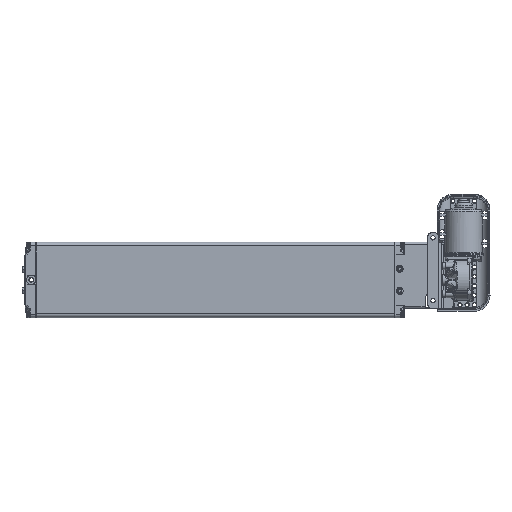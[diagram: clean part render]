
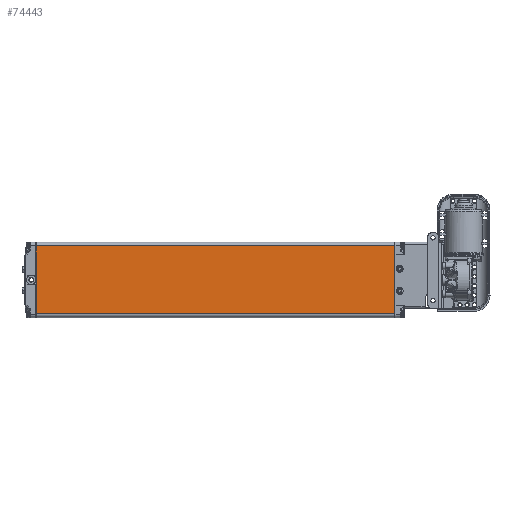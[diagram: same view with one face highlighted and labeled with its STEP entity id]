
A CAD part, top view. The second image highlights one B-rep face of the part: STEP entity #74443.
In plain terms, the highlighted planar face has unit normal (0, 0, 1).
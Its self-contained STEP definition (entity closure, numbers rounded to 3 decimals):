
#7083=LINE('',#125693,#10106);
#7084=LINE('',#125696,#10107);
#7085=LINE('',#125698,#10108);
#7086=LINE('',#125700,#10109);
#10106=VECTOR('',#86867,1000.);
#10107=VECTOR('',#86868,1000.);
#10108=VECTOR('',#86869,1000.);
#10109=VECTOR('',#86870,1000.);
#17808=ORIENTED_EDGE('',*,*,#34867,.T.);
#17809=ORIENTED_EDGE('',*,*,#34868,.T.);
#17810=ORIENTED_EDGE('',*,*,#34869,.T.);
#17811=ORIENTED_EDGE('',*,*,#34870,.T.);
#34867=EDGE_CURVE('',#43622,#43623,#7083,.F.);
#34868=EDGE_CURVE('',#43623,#43624,#7084,.T.);
#34869=EDGE_CURVE('',#43624,#43625,#7085,.T.);
#34870=EDGE_CURVE('',#43625,#43622,#7086,.F.);
#43622=VERTEX_POINT('',#125694);
#43623=VERTEX_POINT('',#125695);
#43624=VERTEX_POINT('',#125697);
#43625=VERTEX_POINT('',#125699);
#52034=EDGE_LOOP('',(#17808,#17809,#17810,#17811));
#56631=FACE_BOUND('',#52034,.T.);
#60386=PLANE('',#78938);
#74443=ADVANCED_FACE('',(#56631),#60386,.T.);
#78938=AXIS2_PLACEMENT_3D('',#125692,#86865,#86866);
#86865=DIRECTION('',(0.,0.,1.));
#86866=DIRECTION('',(1.,0.,0.));
#86867=DIRECTION('',(0.,-1.,0.));
#86868=DIRECTION('',(-1.,0.,0.));
#86869=DIRECTION('',(0.,-1.,0.));
#86870=DIRECTION('',(-1.,0.,0.));
#125692=CARTESIAN_POINT('',(60.,570.5,30.));
#125693=CARTESIAN_POINT('',(54.,570.5,30.));
#125694=CARTESIAN_POINT('',(54.,0.5,30.));
#125695=CARTESIAN_POINT('',(54.,570.,30.));
#125696=CARTESIAN_POINT('',(60.,570.,30.));
#125697=CARTESIAN_POINT('',(-54.,570.,30.));
#125698=CARTESIAN_POINT('',(-54.,570.5,30.));
#125699=CARTESIAN_POINT('',(-54.,0.5,30.));
#125700=CARTESIAN_POINT('',(54.,0.5,30.));
